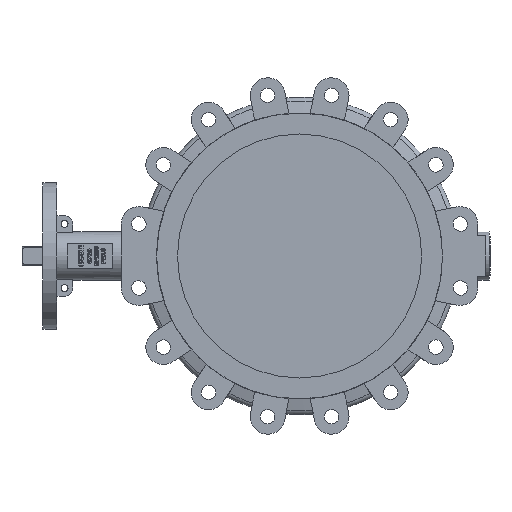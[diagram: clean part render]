
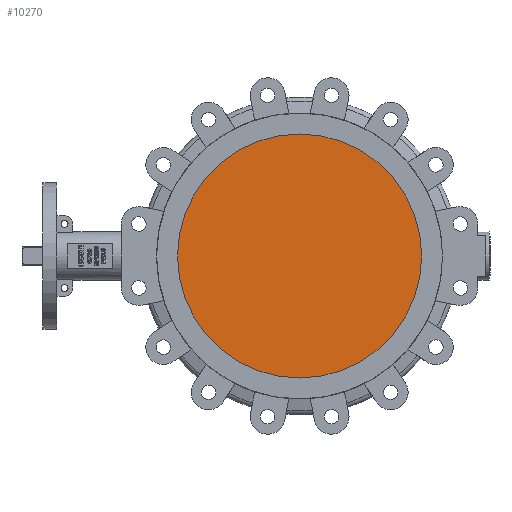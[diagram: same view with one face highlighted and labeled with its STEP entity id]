
A CAD part, left-side view. The second image highlights one B-rep face of the part: STEP entity #10270.
In plain terms, the highlighted planar face has unit normal (-1, 0, 0).
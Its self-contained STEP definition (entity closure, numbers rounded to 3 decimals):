
#703=FACE_OUTER_BOUND('',#1247,.T.);
#1247=EDGE_LOOP('',(#6591));
#1934=CIRCLE('',#10913,175.);
#4060=VERTEX_POINT('',#14128);
#5072=EDGE_CURVE('',#4060,#4060,#1934,.T.);
#6591=ORIENTED_EDGE('',*,*,#5072,.F.);
#9428=PLANE('',#10914);
#10270=ADVANCED_FACE('',(#703),#9428,.F.);
#10913=AXIS2_PLACEMENT_3D('',#14130,#11788,#11789);
#10914=AXIS2_PLACEMENT_3D('',#14131,#11790,#11791);
#11788=DIRECTION('center_axis',(1.,0.,0.));
#11789=DIRECTION('ref_axis',(0.,0.,-1.));
#11790=DIRECTION('center_axis',(1.,0.,0.));
#11791=DIRECTION('ref_axis',(0.,0.,-1.));
#14128=CARTESIAN_POINT('',(-115.151,-55.355,175.));
#14130=CARTESIAN_POINT('Origin',(-115.151,-55.355,0.));
#14131=CARTESIAN_POINT('Origin',(-115.151,-55.355,0.));
